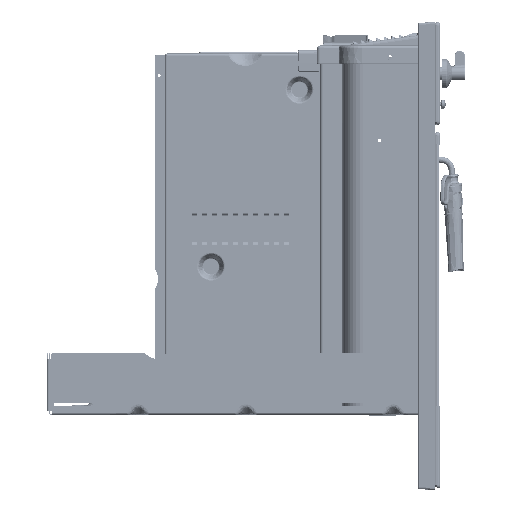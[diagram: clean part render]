
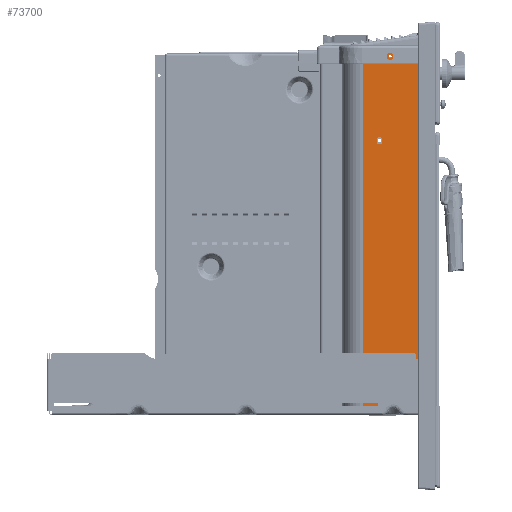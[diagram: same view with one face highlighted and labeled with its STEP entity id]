
A CAD part, left-side view. The second image highlights one B-rep face of the part: STEP entity #73700.
In plain terms, the highlighted planar face has unit normal (-1, 0, 0).
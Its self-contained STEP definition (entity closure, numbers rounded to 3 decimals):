
#44347=FACE_BOUND('',#119291,.T.);
#44348=FACE_BOUND('',#119292,.T.);
#44349=FACE_BOUND('',#119293,.T.);
#48785=PLANE('',#389567);
#73700=ADVANCED_FACE('',(#44347,#44348,#44349),#48785,.T.);
#119291=EDGE_LOOP('',(#153818,#153819,#153820,#153821));
#119292=EDGE_LOOP('',(#153822,#153823));
#119293=EDGE_LOOP('',(#153824,#153825,#153826,#153827));
#140917=CIRCLE('',#389563,1.5);
#140918=CIRCLE('',#389564,1.5);
#140919=CIRCLE('',#389565,3.5);
#140920=CIRCLE('',#389566,3.5);
#153818=ORIENTED_EDGE('',*,*,#293230,.F.);
#153819=ORIENTED_EDGE('',*,*,#293231,.F.);
#153820=ORIENTED_EDGE('',*,*,#293227,.T.);
#153821=ORIENTED_EDGE('',*,*,#293189,.F.);
#153822=ORIENTED_EDGE('',*,*,#293232,.F.);
#153823=ORIENTED_EDGE('',*,*,#293233,.F.);
#153824=ORIENTED_EDGE('',*,*,#293234,.F.);
#153825=ORIENTED_EDGE('',*,*,#293235,.F.);
#153826=ORIENTED_EDGE('',*,*,#293236,.F.);
#153827=ORIENTED_EDGE('',*,*,#293237,.F.);
#259046=VERTEX_POINT('',#505617);
#259047=VERTEX_POINT('',#505619);
#259065=VERTEX_POINT('',#505702);
#259067=VERTEX_POINT('',#505708);
#259068=VERTEX_POINT('',#505711);
#259069=VERTEX_POINT('',#505712);
#259070=VERTEX_POINT('',#505715);
#259071=VERTEX_POINT('',#505716);
#259072=VERTEX_POINT('',#505718);
#259073=VERTEX_POINT('',#505720);
#293189=EDGE_CURVE('',#259046,#259047,#345995,.T.);
#293227=EDGE_CURVE('',#259065,#259047,#346008,.T.);
#293230=EDGE_CURVE('',#259067,#259046,#346010,.T.);
#293231=EDGE_CURVE('',#259065,#259067,#346011,.T.);
#293232=EDGE_CURVE('',#259068,#259069,#140917,.T.);
#293233=EDGE_CURVE('',#259069,#259068,#140918,.T.);
#293234=EDGE_CURVE('',#259070,#259071,#346012,.T.);
#293235=EDGE_CURVE('',#259072,#259070,#140919,.T.);
#293236=EDGE_CURVE('',#259073,#259072,#346013,.T.);
#293237=EDGE_CURVE('',#259071,#259073,#140920,.T.);
#345995=LINE('',#505618,#367500);
#346008=LINE('',#505701,#367513);
#346010=LINE('',#505707,#367515);
#346011=LINE('',#505709,#367516);
#346012=LINE('',#505714,#367517);
#346013=LINE('',#505719,#367518);
#367500=VECTOR('',#421160,1.);
#367513=VECTOR('',#421261,1.);
#367515=VECTOR('',#421267,1.);
#367516=VECTOR('',#421268,1.);
#367517=VECTOR('',#421273,1.);
#367518=VECTOR('',#421276,1.);
#389563=AXIS2_PLACEMENT_3D('',#505710,#421269,#421270);
#389564=AXIS2_PLACEMENT_3D('',#505713,#421271,#421272);
#389565=AXIS2_PLACEMENT_3D('',#505717,#421274,#421275);
#389566=AXIS2_PLACEMENT_3D('',#505721,#421277,#421278);
#389567=AXIS2_PLACEMENT_3D('',#505722,#421279,#421280);
#421160=DIRECTION('',(0.,-1.,0.));
#421261=DIRECTION('',(0.,0.,1.));
#421267=DIRECTION('',(0.,0.,1.));
#421268=DIRECTION('',(0.,1.,0.));
#421269=DIRECTION('',(-1.,0.,0.));
#421270=DIRECTION('',(0.,0.,1.));
#421271=DIRECTION('',(-1.,0.,0.));
#421272=DIRECTION('',(0.,0.,1.));
#421273=DIRECTION('',(0.,0.,1.));
#421274=DIRECTION('',(-1.,0.,0.));
#421275=DIRECTION('',(0.,0.,1.));
#421276=DIRECTION('',(0.,0.,-1.));
#421277=DIRECTION('',(-1.,0.,0.));
#421278=DIRECTION('',(0.,0.,1.));
#421279=DIRECTION('',(-1.,0.,0.));
#421280=DIRECTION('',(0.,1.,0.));
#505617=CARTESIAN_POINT('',(-223.7,-128.,297.));
#505618=CARTESIAN_POINT('',(-223.7,-156.1,297.));
#505619=CARTESIAN_POINT('',(-223.7,-184.2,297.));
#505701=CARTESIAN_POINT('',(-223.7,-184.2,127.1));
#505702=CARTESIAN_POINT('',(-223.7,-184.2,-58.5));
#505707=CARTESIAN_POINT('',(-223.7,-128.,119.25));
#505708=CARTESIAN_POINT('',(-223.7,-128.,-58.5));
#505709=CARTESIAN_POINT('',(-223.7,-156.1,-58.5));
#505710=CARTESIAN_POINT('',(-223.7,-154.,289.));
#505711=CARTESIAN_POINT('',(-223.7,-152.684,288.281));
#505712=CARTESIAN_POINT('',(-223.7,-155.316,289.719));
#505713=CARTESIAN_POINT('',(-223.7,-154.,289.));
#505714=CARTESIAN_POINT('',(-223.7,-146.3,206.9));
#505715=CARTESIAN_POINT('',(-223.7,-146.3,204.451));
#505716=CARTESIAN_POINT('',(-223.7,-146.3,209.349));
#505717=CARTESIAN_POINT('',(-223.7,-143.8,206.9));
#505718=CARTESIAN_POINT('',(-223.7,-141.3,204.451));
#505719=CARTESIAN_POINT('',(-223.7,-141.3,206.9));
#505720=CARTESIAN_POINT('',(-223.7,-141.3,209.349));
#505721=CARTESIAN_POINT('',(-223.7,-143.8,206.9));
#505722=CARTESIAN_POINT('',(-223.7,-128.,-50.));
